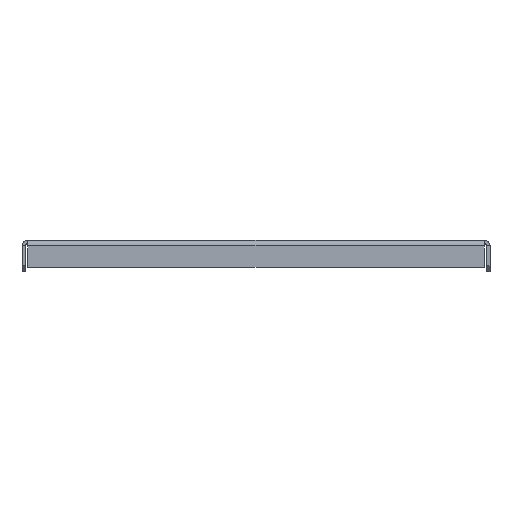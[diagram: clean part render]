
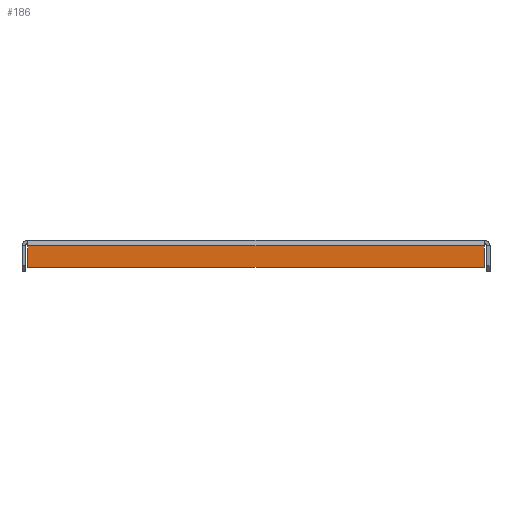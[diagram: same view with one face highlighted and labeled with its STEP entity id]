
A CAD part, front view. The second image highlights one B-rep face of the part: STEP entity #186.
In plain terms, the highlighted planar face has unit normal (0, -1, 0).
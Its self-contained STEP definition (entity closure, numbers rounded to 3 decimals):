
#186=ADVANCED_FACE('',(#1848),#1850,.T.);
#1848=FACE_BOUND('',#1849,.T.);
#1849=EDGE_LOOP('',(#3013,#3014,#3015,#3016));
#1850=PLANE('',#1851);
#1851=AXIS2_PLACEMENT_3D('',#1852,#1853,#1854);
#1852=CARTESIAN_POINT('',(0.,-223.5,0.));
#1853=DIRECTION('',(0.,-1.,0.));
#1854=DIRECTION('',(0.,0.,-1.));
#3013=ORIENTED_EDGE('',*,*,#3695,.F.);
#3014=ORIENTED_EDGE('',*,*,#3689,.T.);
#3015=ORIENTED_EDGE('',*,*,#3691,.F.);
#3016=ORIENTED_EDGE('',*,*,#3697,.F.);
#3689=EDGE_CURVE('',#4468,#4475,#4479,.T.);
#3691=EDGE_CURVE('',#4481,#4475,#4482,.T.);
#3695=EDGE_CURVE('',#4468,#4488,#4489,.T.);
#3697=EDGE_CURVE('',#4488,#4481,#4491,.T.);
#4468=VERTEX_POINT('',#6198);
#4475=VERTEX_POINT('',#6218);
#4479=LINE('',#6229,#6230);
#4481=VERTEX_POINT('',#6235);
#4482=LINE('',#6236,#6237);
#4488=VERTEX_POINT('',#6250);
#4489=LINE('',#6251,#6252);
#4491=LINE('',#6257,#6258);
#6198=CARTESIAN_POINT('',(139.1,-223.5,-3.4));
#6218=CARTESIAN_POINT('',(-139.1,-223.5,-3.4));
#6229=CARTESIAN_POINT('',(139.1,-223.5,-3.4));
#6230=VECTOR('',#6231,1.);
#6231=DIRECTION('',(-1.,0.,0.));
#6235=CARTESIAN_POINT('',(-139.1,-223.5,-16.4));
#6236=CARTESIAN_POINT('',(-139.1,-223.5,-16.4));
#6237=VECTOR('',#6238,1.);
#6238=DIRECTION('',(0.,0.,1.));
#6250=CARTESIAN_POINT('',(139.1,-223.5,-16.4));
#6251=CARTESIAN_POINT('',(139.1,-223.5,-3.4));
#6252=VECTOR('',#6253,1.);
#6253=DIRECTION('',(0.,0.,-1.));
#6257=CARTESIAN_POINT('',(139.1,-223.5,-16.4));
#6258=VECTOR('',#6259,1.);
#6259=DIRECTION('',(-1.,0.,0.));
